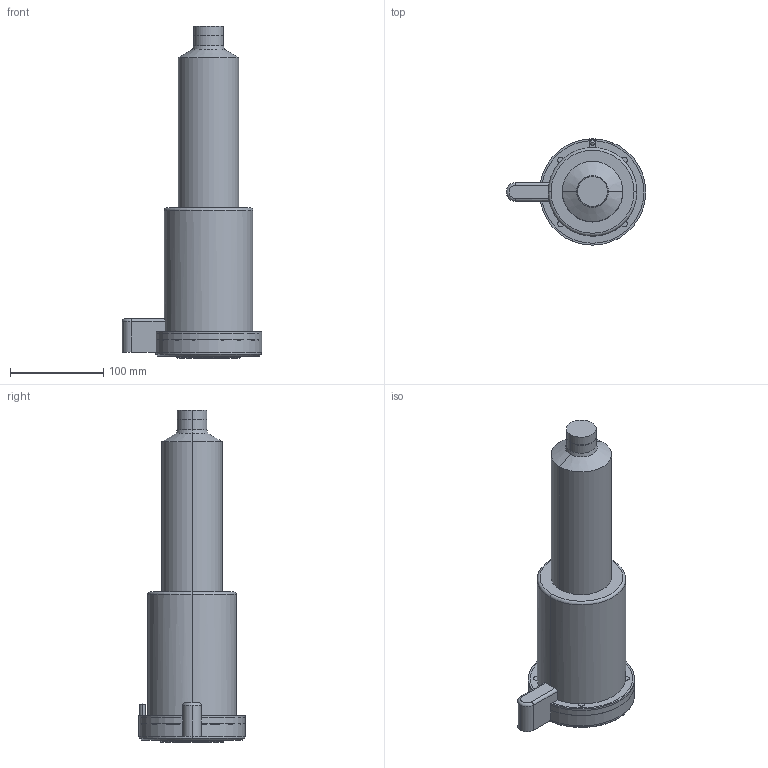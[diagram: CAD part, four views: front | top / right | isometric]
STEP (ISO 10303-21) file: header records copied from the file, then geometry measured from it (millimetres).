
FILE_DESCRIPTION (( 'STEP AP214' ), '1' );
FILE_NAME ('SR24_CLOSED_350_BAND.STEP', '2009-05-07T18:27:57', ( 'Synventive Molding Solutions' ), ( 'Synventive Molding Solutions' ), 'SwSTEP 2.0', 'SolidWorks 2008', '' );
FILE_SCHEMA (( 'AUTOMOTIVE_DESIGN' ));
Length unit declared in the file: millimetre
Products named in the file (1): SR24_CLOSED_350_BAND
Bounding box: 149.5 x 114 x 356 mm (x, y, z)
Volume: 2883267.3 mm3; surface area: 257464.7 mm2
Topology: 7 solids, 7 shells, 443 faces, 1111 edges, 688 vertices
Faces by surface type: cylinder 179, plane 150, torus 66, cone 40, sphere 4, bspline 4
Entity records: 19663 total; most frequent: CARTESIAN_POINT 4033, DIRECTION 2321, ORIENTED_EDGE 2198, EDGE_CURVE 1099, AXIS2_PLACEMENT_3D 930, VERTEX_POINT 688, CIRCLE 490, EDGE_LOOP 487
